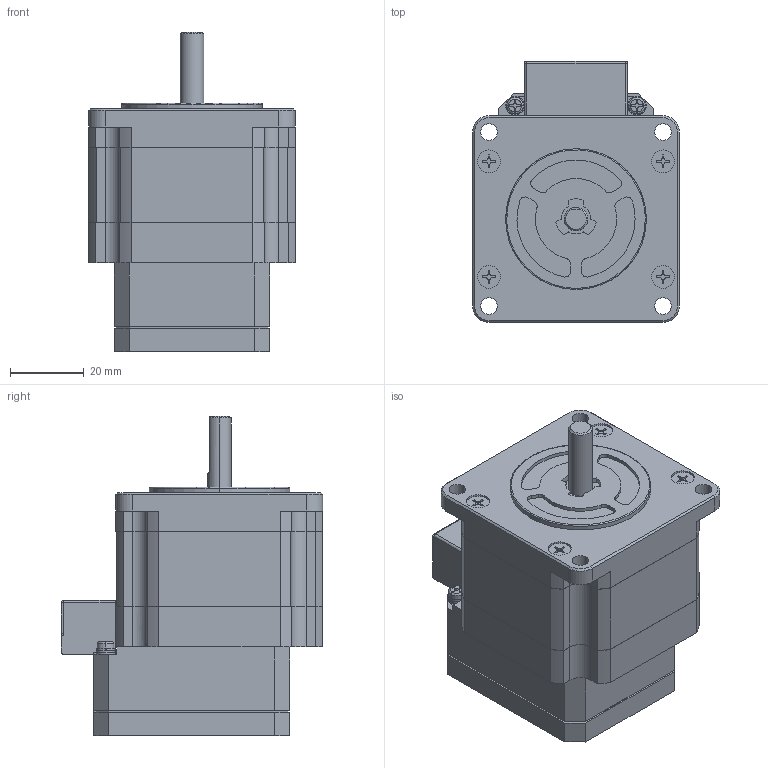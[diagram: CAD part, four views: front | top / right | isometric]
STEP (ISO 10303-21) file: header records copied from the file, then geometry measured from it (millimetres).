
FILE_DESCRIPTION (( 'STEP AP203' ), '1' );
FILE_NAME ('CM1-X-23S30C.STEP', '2012-02-06T14:57:38', ( 'render' ), ( '' ), 'SwSTEP 2.0', 'SolidWorks 2011', '' );
FILE_SCHEMA (( 'CONFIG_CONTROL_DESIGN' ));
Length unit declared in the file: millimetre
Products named in the file (1): CM1-X-23S30C
Bounding box: 56 x 70.81 x 86.4 mm (x, y, z)
Volume: 170701.6 mm3; surface area: 27430.3 mm2
Topology: 1 solids, 1 shells, 907 faces, 2584 edges, 1681 vertices
Faces by surface type: plane 626, cylinder 268, cone 7, bspline 6
Entity records: 29686 total; most frequent: CARTESIAN_POINT 5434, ORIENTED_EDGE 5168, DIRECTION 4933, EDGE_CURVE 2584, VECTOR 2009, LINE 2009, VERTEX_POINT 1681, AXIS2_PLACEMENT_3D 1462
